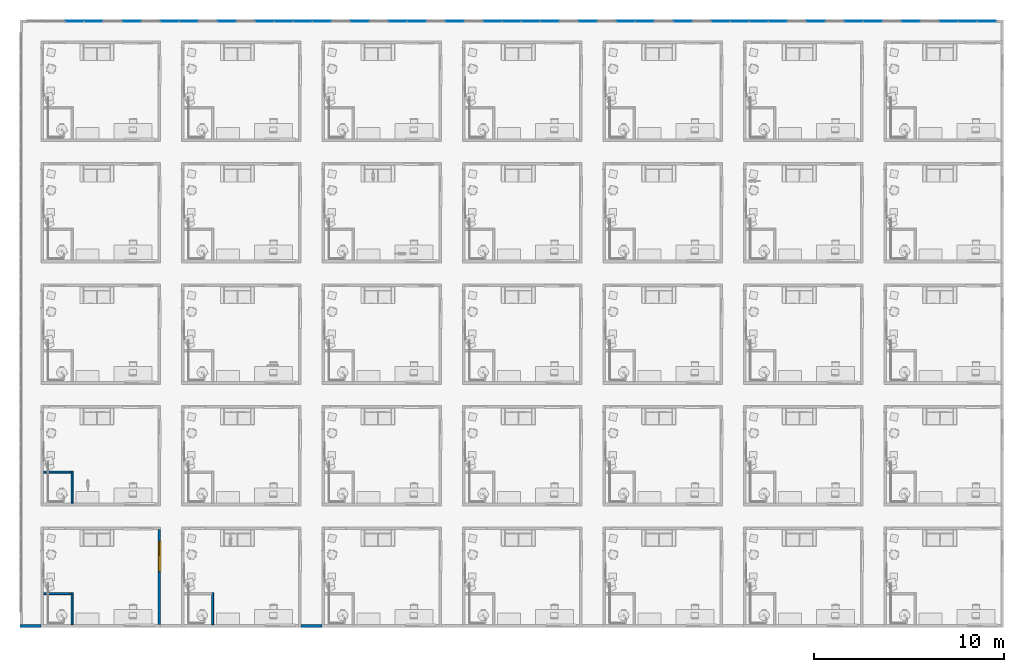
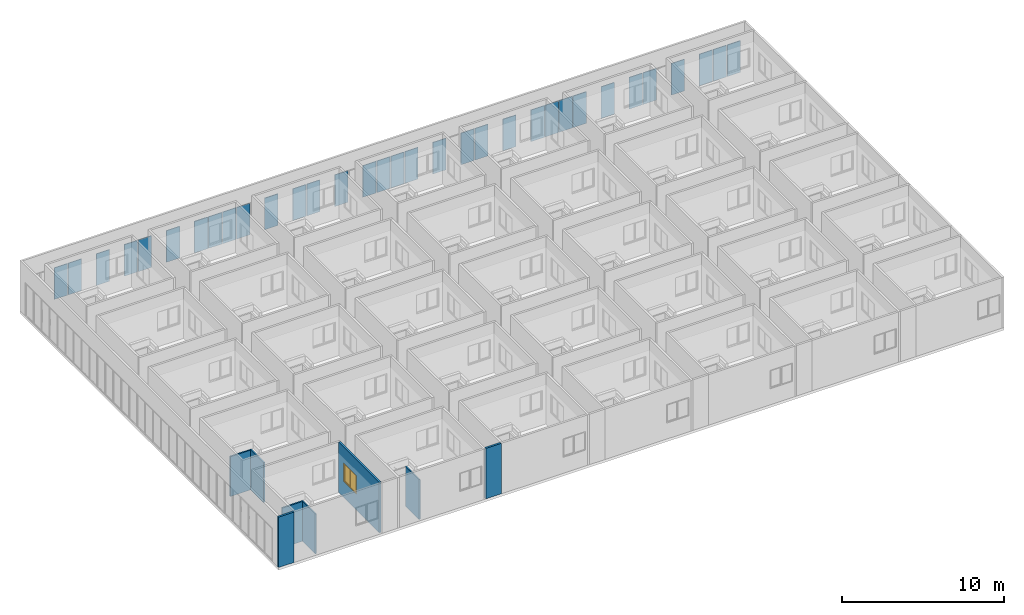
# One storey, part 6 of 71: 33 plates, 8 walls, 1 window, 1 opening, 1 element without a shape of its own.
"""IFC4 building model written with IfcOpenShell, lengths in centimetres."""

from ifc_helpers import new_model, entity, si_unit, converted_unit, derived_unit, direction, frame, origin, place, context, subcontext, project, spatial, indexed_curve, outline, extrude, polygons, source, transform, mapped, material, constituent, constituent_set, type_object, type_shapes, element, fill, aggregate, save


model = new_model("IFC4")

# Units and contexts
model_context = context("Model", 3, precision=0.001, world=origin(), true_north=direction((6.123233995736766e-17, 1.0)))
body_context = subcontext(model_context, "Body", "Model", "MODEL_VIEW")
ifc_project = project(units=[si_unit("LENGTHUNIT", "METRE", prefix="CENTI"), si_unit("AREAUNIT", "SQUARE_METRE"), si_unit("VOLUMEUNIT", "CUBIC_METRE"), derived_unit("THERMALTRANSMITTANCEUNIT", [(si_unit("MASSUNIT", "GRAM", prefix="KILO"), 1), (si_unit("THERMODYNAMICTEMPERATUREUNIT", "KELVIN"), -1), (si_unit("TIMEUNIT", "SECOND"), -3)]), converted_unit("PLANEANGLEUNIT", "DEGREE", entity("IfcPlaneAngleMeasure", 0.017453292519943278), si_unit("PLANEANGLEUNIT", "RADIAN"), dimensions=[0, 0, 0, 0, 0, 0, 0]), derived_unit("MASSDENSITYUNIT", [(si_unit("MASSUNIT", "GRAM", prefix="KILO"), 1), (si_unit("LENGTHUNIT", "METRE"), -3)]), derived_unit("VAPORPERMEABILITYUNIT", [(si_unit("LENGTHUNIT", "METRE"), -1), (si_unit("TIMEUNIT", "SECOND"), 1)]), derived_unit("USERDEFINED", [(si_unit("MASSUNIT", "GRAM", prefix="KILO"), 1), (si_unit("TIMEUNIT", "SECOND"), -3), (si_unit("LENGTHUNIT", "METRE"), 3), (si_unit("ELECTRICCURRENTUNIT", "AMPERE"), -2)]), derived_unit("SPECIFICHEATCAPACITYUNIT", [(si_unit("THERMODYNAMICTEMPERATUREUNIT", "KELVIN"), -1), (si_unit("LENGTHUNIT", "METRE"), 2), (si_unit("TIMEUNIT", "SECOND"), -2)]), derived_unit("THERMALCONDUCTANCEUNIT", [(si_unit("MASSUNIT", "GRAM", prefix="KILO"), 1), (si_unit("THERMODYNAMICTEMPERATUREUNIT", "KELVIN"), -1), (si_unit("TIMEUNIT", "SECOND"), -3), (si_unit("LENGTHUNIT", "METRE"), 1)]), si_unit("PRESSUREUNIT", "PASCAL"), derived_unit("MODULUSOFELASTICITYUNIT", [(si_unit("MASSUNIT", "GRAM", prefix="KILO"), 1), (si_unit("LENGTHUNIT", "METRE"), -1), (si_unit("TIMEUNIT", "SECOND"), -2)]), derived_unit("THERMALEXPANSIONCOEFFICIENTUNIT", [(si_unit("THERMODYNAMICTEMPERATUREUNIT", "KELVIN"), -1)])], contexts=[model_context])

# Site, building, storey
site_placement = place(None, origin())
site = spatial("IfcSite", under=ifc_project, at=site_placement, Name="Default", CompositionType="ELEMENT")
building_placement = place(site_placement, origin())
building = spatial("IfcBuilding", under=site, at=building_placement, Name="IDS Escape Game Building", CompositionType="ELEMENT")
storey_placement = place(building_placement, frame((0.0, 0.0, 1200.0)))
storey = spatial("IfcBuildingStorey", under=building, at=storey_placement, Name="03_Third Floor", CompositionType="ELEMENT", Elevation=1200.0)

# Curtain wall, plates
curtain_wall_type = type_object("IfcCurtainWallType", Name="Curtain Wall:ARC_31.3_CWA_LIB_bandraam vast 100cm - profiel 60x60_gen_BERSnl", PredefinedType="NOTDEFINED")
curtain_wall_placement = place(storey_placement, frame((0.0, 0.0, -1200.0)))
curtain_wall = element("IfcCurtainWall", 1, at=curtain_wall_placement, inside=storey, type_object=curtain_wall_type, Name="Curtain Wall:ARC_31.3_CWA_LIB_bandraam vast 100cm - profiel 60x60_gen_BERSnl", ObjectType="Curtain Wall:ARC_31.3_CWA_LIB_bandraam vast 100cm - profiel 60x60_gen_BERSnl", PredefinedType="NOTDEFINED")
ifc_material_1 = material(Name="ARC_FME.o1_glass_00_gen_BERSnl", Category="o - glas")
plate_type = type_object("IfcPlateType", Name="System Panel:Glazed", PredefinedType="CURTAIN_PANEL", material=ifc_material_1)
shared_shape_1 = source(origin(), body_context, "Body", "SweptSolid", [
    extrude(outline(indexed_curve([(-2.5, -46.92156864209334), (2.5, -46.92156864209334), (2.5, 46.92156864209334), (-2.5, 46.92156864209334), (-2.5, -46.92156864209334)], self_intersect=False)), frame((0.0, 0.0, 0.0), z_axis=(0.0, 0.0, 1.0), x_axis=(0.0, 1.0, 0.0)), (0.0, 0.0, 1.0), 238.00000000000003),
])
type_shapes(plate_type, [shared_shape_1])
plate_1_placement = place(curtain_wall_placement, frame((169.60784316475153, 3182.0, 1206.0)))
plate_1 = element("IfcPlate", 2, at=plate_1_placement, type_object=plate_type, material=ifc_material_1, Name="System Panel:Glazed", ObjectType="System Panel:Glazed", PredefinedType="CURTAIN_PANEL", context=body_context, shape_type="MappedRepresentation", body=[
    mapped(shared_shape_1, transform((0.0, 0.0, 0.0), scale=1.0)),
])
plate_2_placement = place(curtain_wall_placement, frame((269.45098041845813, 3182.0, 1206.0)))
plate_2 = element("IfcPlate", 3, at=plate_2_placement, type_object=plate_type, material=ifc_material_1, Name="System Panel:Glazed", ObjectType="System Panel:Glazed", PredefinedType="CURTAIN_PANEL", context=body_context, shape_type="MappedRepresentation", body=[
    mapped(shared_shape_1, transform((0.0, 0.0, 0.0), scale=1.0)),
])
plate_3_placement = place(curtain_wall_placement, frame((469.1372549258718, 3182.0, 1206.0)))
plate_3 = element("IfcPlate", 4, at=plate_3_placement, type_object=plate_type, material=ifc_material_1, Name="System Panel:Glazed", ObjectType="System Panel:Glazed", PredefinedType="CURTAIN_PANEL", context=body_context, shape_type="MappedRepresentation", body=[
    mapped(shared_shape_1, transform((0.0, 0.0, 0.0), scale=1.0)),
])
plate_4_placement = place(curtain_wall_placement, frame((668.823529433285, 3182.0, 1206.0)))
plate_4 = element("IfcPlate", 5, at=plate_4_placement, type_object=plate_type, material=ifc_material_1, Name="System Panel:Glazed", ObjectType="System Panel:Glazed", PredefinedType="CURTAIN_PANEL", context=body_context, shape_type="MappedRepresentation", body=[
    mapped(shared_shape_1, transform((0.0, 0.0, 0.0), scale=1.0)),
])
plate_5_placement = place(curtain_wall_placement, frame((768.6666666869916, 3182.0, 1206.0)))
plate_5 = element("IfcPlate", 6, at=plate_5_placement, type_object=plate_type, material=ifc_material_1, Name="System Panel:Glazed", ObjectType="System Panel:Glazed", PredefinedType="CURTAIN_PANEL", context=body_context, shape_type="MappedRepresentation", body=[
    mapped(shared_shape_1, transform((0.0, 0.0, 0.0), scale=1.0)),
])
plate_6_placement = place(curtain_wall_placement, frame((968.3529411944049, 3182.0, 1206.0)))
plate_6 = element("IfcPlate", 7, at=plate_6_placement, type_object=plate_type, material=ifc_material_1, Name="System Panel:Glazed", ObjectType="System Panel:Glazed", PredefinedType="CURTAIN_PANEL", context=body_context, shape_type="MappedRepresentation", body=[
    mapped(shared_shape_1, transform((0.0, 0.0, 0.0), scale=1.0)),
])
plate_7_placement = place(curtain_wall_placement, frame((1168.0392157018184, 3182.0, 1206.0)))
plate_7 = element("IfcPlate", 8, at=plate_7_placement, type_object=plate_type, material=ifc_material_1, Name="System Panel:Glazed", ObjectType="System Panel:Glazed", PredefinedType="CURTAIN_PANEL", context=body_context, shape_type="MappedRepresentation", body=[
    mapped(shared_shape_1, transform((0.0, 0.0, 0.0), scale=1.0)),
])
plate_8_placement = place(curtain_wall_placement, frame((1267.8823529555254, 3182.0, 1206.0)))
plate_8 = element("IfcPlate", 9, at=plate_8_placement, type_object=plate_type, material=ifc_material_1, Name="System Panel:Glazed", ObjectType="System Panel:Glazed", PredefinedType="CURTAIN_PANEL", context=body_context, shape_type="MappedRepresentation", body=[
    mapped(shared_shape_1, transform((0.0, 0.0, 0.0), scale=1.0)),
])
plate_9_placement = place(curtain_wall_placement, frame((1367.725490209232, 3182.0, 1206.0)))
plate_9 = element("IfcPlate", 10, at=plate_9_placement, type_object=plate_type, material=ifc_material_1, Name="System Panel:Glazed", ObjectType="System Panel:Glazed", PredefinedType="CURTAIN_PANEL", context=body_context, shape_type="MappedRepresentation", body=[
    mapped(shared_shape_1, transform((0.0, 0.0, 0.0), scale=1.0)),
])
plate_10_placement = place(curtain_wall_placement, frame((1467.568627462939, 3182.0, 1206.0)))
plate_10 = element("IfcPlate", 11, at=plate_10_placement, type_object=plate_type, material=ifc_material_1, Name="System Panel:Glazed", ObjectType="System Panel:Glazed", PredefinedType="CURTAIN_PANEL", context=body_context, shape_type="MappedRepresentation", body=[
    mapped(shared_shape_1, transform((0.0, 0.0, 0.0), scale=1.0)),
])
plate_11_placement = place(curtain_wall_placement, frame((1667.2549019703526, 3182.0, 1206.0)))
plate_11 = element("IfcPlate", 12, at=plate_11_placement, type_object=plate_type, material=ifc_material_1, Name="System Panel:Glazed", ObjectType="System Panel:Glazed", PredefinedType="CURTAIN_PANEL", context=body_context, shape_type="MappedRepresentation", body=[
    mapped(shared_shape_1, transform((0.0, 0.0, 0.0), scale=1.0)),
])
plate_12_placement = place(curtain_wall_placement, frame((1866.9411764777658, 3182.0, 1206.0)))
plate_12 = element("IfcPlate", 13, at=plate_12_placement, type_object=plate_type, material=ifc_material_1, Name="System Panel:Glazed", ObjectType="System Panel:Glazed", PredefinedType="CURTAIN_PANEL", context=body_context, shape_type="MappedRepresentation", body=[
    mapped(shared_shape_1, transform((0.0, 0.0, 0.0), scale=1.0)),
])
plate_13_placement = place(curtain_wall_placement, frame((1966.7843137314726, 3182.0, 1206.0)))
plate_13 = element("IfcPlate", 14, at=plate_13_placement, type_object=plate_type, material=ifc_material_1, Name="System Panel:Glazed", ObjectType="System Panel:Glazed", PredefinedType="CURTAIN_PANEL", context=body_context, shape_type="MappedRepresentation", body=[
    mapped(shared_shape_1, transform((0.0, 0.0, 0.0), scale=1.0)),
])
plate_14_placement = place(curtain_wall_placement, frame((2166.4705882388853, 3182.0, 1206.0)))
plate_14 = element("IfcPlate", 15, at=plate_14_placement, type_object=plate_type, material=ifc_material_1, Name="System Panel:Glazed", ObjectType="System Panel:Glazed", PredefinedType="CURTAIN_PANEL", context=body_context, shape_type="MappedRepresentation", body=[
    mapped(shared_shape_1, transform((0.0, 0.0, 0.0), scale=1.0)),
])
plate_15_placement = place(curtain_wall_placement, frame((2366.156862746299, 3182.0, 1206.0)))
plate_15 = element("IfcPlate", 16, at=plate_15_placement, type_object=plate_type, material=ifc_material_1, Name="System Panel:Glazed", ObjectType="System Panel:Glazed", PredefinedType="CURTAIN_PANEL", context=body_context, shape_type="MappedRepresentation", body=[
    mapped(shared_shape_1, transform((0.0, 0.0, 0.0), scale=1.0)),
])
plate_16_placement = place(curtain_wall_placement, frame((2466.0, 3182.0, 1206.0)))
plate_16 = element("IfcPlate", 17, at=plate_16_placement, type_object=plate_type, material=ifc_material_1, Name="System Panel:Glazed", ObjectType="System Panel:Glazed", PredefinedType="CURTAIN_PANEL", context=body_context, shape_type="MappedRepresentation", body=[
    mapped(shared_shape_1, transform((0.0, 0.0, 0.0), scale=1.0)),
])
plate_17_placement = place(curtain_wall_placement, frame((2565.843137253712, 3182.0, 1206.0)))
plate_17 = element("IfcPlate", 18, at=plate_17_placement, type_object=plate_type, material=ifc_material_1, Name="System Panel:Glazed", ObjectType="System Panel:Glazed", PredefinedType="CURTAIN_PANEL", context=body_context, shape_type="MappedRepresentation", body=[
    mapped(shared_shape_1, transform((0.0, 0.0, 0.0), scale=1.0)),
])
plate_18_placement = place(curtain_wall_placement, frame((2665.6862745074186, 3182.0, 1206.0)))
plate_18 = element("IfcPlate", 19, at=plate_18_placement, type_object=plate_type, material=ifc_material_1, Name="System Panel:Glazed", ObjectType="System Panel:Glazed", PredefinedType="CURTAIN_PANEL", context=body_context, shape_type="MappedRepresentation", body=[
    mapped(shared_shape_1, transform((0.0, 0.0, 0.0), scale=1.0)),
])
plate_19_placement = place(curtain_wall_placement, frame((2865.3725490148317, 3182.0, 1206.0)))
plate_19 = element("IfcPlate", 20, at=plate_19_placement, type_object=plate_type, material=ifc_material_1, Name="System Panel:Glazed", ObjectType="System Panel:Glazed", PredefinedType="CURTAIN_PANEL", context=body_context, shape_type="MappedRepresentation", body=[
    mapped(shared_shape_1, transform((0.0, 0.0, 0.0), scale=1.0)),
])
plate_20_placement = place(curtain_wall_placement, frame((3065.0588235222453, 3182.0, 1206.0)))
plate_20 = element("IfcPlate", 21, at=plate_20_placement, type_object=plate_type, material=ifc_material_1, Name="System Panel:Glazed", ObjectType="System Panel:Glazed", PredefinedType="CURTAIN_PANEL", context=body_context, shape_type="MappedRepresentation", body=[
    mapped(shared_shape_1, transform((0.0, 0.0, 0.0), scale=1.0)),
])
plate_21_placement = place(curtain_wall_placement, frame((3164.9019607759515, 3182.0, 1206.0)))
plate_21 = element("IfcPlate", 22, at=plate_21_placement, type_object=plate_type, material=ifc_material_1, Name="System Panel:Glazed", ObjectType="System Panel:Glazed", PredefinedType="CURTAIN_PANEL", context=body_context, shape_type="MappedRepresentation", body=[
    mapped(shared_shape_1, transform((0.0, 0.0, 0.0), scale=1.0)),
])
plate_22_placement = place(curtain_wall_placement, frame((3364.588235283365, 3182.0, 1206.0)))
plate_22 = element("IfcPlate", 23, at=plate_22_placement, type_object=plate_type, material=ifc_material_1, Name="System Panel:Glazed", ObjectType="System Panel:Glazed", PredefinedType="CURTAIN_PANEL", context=body_context, shape_type="MappedRepresentation", body=[
    mapped(shared_shape_1, transform((0.0, 0.0, 0.0), scale=1.0)),
])
plate_23_placement = place(curtain_wall_placement, frame((3564.2745097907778, 3182.0, 1206.0)))
plate_23 = element("IfcPlate", 24, at=plate_23_placement, type_object=plate_type, material=ifc_material_1, Name="System Panel:Glazed", ObjectType="System Panel:Glazed", PredefinedType="CURTAIN_PANEL", context=body_context, shape_type="MappedRepresentation", body=[
    mapped(shared_shape_1, transform((0.0, 0.0, 0.0), scale=1.0)),
])
plate_24_placement = place(curtain_wall_placement, frame((3664.117647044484, 3182.0, 1206.0)))
plate_24 = element("IfcPlate", 25, at=plate_24_placement, type_object=plate_type, material=ifc_material_1, Name="System Panel:Glazed", ObjectType="System Panel:Glazed", PredefinedType="CURTAIN_PANEL", context=body_context, shape_type="MappedRepresentation", body=[
    mapped(shared_shape_1, transform((0.0, 0.0, 0.0), scale=1.0)),
])
plate_25_placement = place(curtain_wall_placement, frame((3763.9607842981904, 3182.0, 1206.0)))
plate_25 = element("IfcPlate", 26, at=plate_25_placement, type_object=plate_type, material=ifc_material_1, Name="System Panel:Glazed", ObjectType="System Panel:Glazed", PredefinedType="CURTAIN_PANEL", context=body_context, shape_type="MappedRepresentation", body=[
    mapped(shared_shape_1, transform((0.0, 0.0, 0.0), scale=1.0)),
])
plate_26_placement = place(curtain_wall_placement, frame((3863.8039215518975, 3182.0, 1206.0)))
plate_26 = element("IfcPlate", 27, at=plate_26_placement, type_object=plate_type, material=ifc_material_1, Name="System Panel:Glazed", ObjectType="System Panel:Glazed", PredefinedType="CURTAIN_PANEL", context=body_context, shape_type="MappedRepresentation", body=[
    mapped(shared_shape_1, transform((0.0, 0.0, 0.0), scale=1.0)),
])
plate_27_placement = place(curtain_wall_placement, frame((4063.4901960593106, 3182.0, 1206.0)))
plate_27 = element("IfcPlate", 28, at=plate_27_placement, type_object=plate_type, material=ifc_material_1, Name="System Panel:Glazed", ObjectType="System Panel:Glazed", PredefinedType="CURTAIN_PANEL", context=body_context, shape_type="MappedRepresentation", body=[
    mapped(shared_shape_1, transform((0.0, 0.0, 0.0), scale=1.0)),
])
plate_28_placement = place(curtain_wall_placement, frame((4263.176470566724, 3182.0, 1206.0)))
plate_28 = element("IfcPlate", 29, at=plate_28_placement, type_object=plate_type, material=ifc_material_1, Name="System Panel:Glazed", ObjectType="System Panel:Glazed", PredefinedType="CURTAIN_PANEL", context=body_context, shape_type="MappedRepresentation", body=[
    mapped(shared_shape_1, transform((0.0, 0.0, 0.0), scale=1.0)),
])
plate_29_placement = place(curtain_wall_placement, frame((4363.01960782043, 3182.0, 1206.0)))
plate_29 = element("IfcPlate", 30, at=plate_29_placement, type_object=plate_type, material=ifc_material_1, Name="System Panel:Glazed", ObjectType="System Panel:Glazed", PredefinedType="CURTAIN_PANEL", context=body_context, shape_type="MappedRepresentation", body=[
    mapped(shared_shape_1, transform((0.0, 0.0, 0.0), scale=1.0)),
])
plate_30_placement = place(curtain_wall_placement, frame((4562.705882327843, 3182.0, 1206.0)))
plate_30 = element("IfcPlate", 31, at=plate_30_placement, type_object=plate_type, material=ifc_material_1, Name="System Panel:Glazed", ObjectType="System Panel:Glazed", PredefinedType="CURTAIN_PANEL", context=body_context, shape_type="MappedRepresentation", body=[
    mapped(shared_shape_1, transform((0.0, 0.0, 0.0), scale=1.0)),
])
plate_31_placement = place(curtain_wall_placement, frame((4762.392156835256, 3182.0, 1206.0)))
plate_31 = element("IfcPlate", 32, at=plate_31_placement, type_object=plate_type, material=ifc_material_1, Name="System Panel:Glazed", ObjectType="System Panel:Glazed", PredefinedType="CURTAIN_PANEL", context=body_context, shape_type="MappedRepresentation", body=[
    mapped(shared_shape_1, transform((0.0, 0.0, 0.0), scale=1.0)),
])
plate_32_placement = place(curtain_wall_placement, frame((4862.235294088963, 3182.0, 1206.0)))
plate_32 = element("IfcPlate", 33, at=plate_32_placement, type_object=plate_type, material=ifc_material_1, Name="System Panel:Glazed", ObjectType="System Panel:Glazed", PredefinedType="CURTAIN_PANEL", context=body_context, shape_type="MappedRepresentation", body=[
    mapped(shared_shape_1, transform((0.0, 0.0, 0.0), scale=1.0)),
])
plate_33_placement = place(curtain_wall_placement, frame((4962.078431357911, 3182.0, 1206.0)))
plate_33 = element("IfcPlate", 34, at=plate_33_placement, type_object=plate_type, material=ifc_material_1, Name="System Panel:Glazed", ObjectType="System Panel:Glazed", PredefinedType="CURTAIN_PANEL", context=body_context, shape_type="MappedRepresentation", body=[
    mapped(shared_shape_1, transform((0.0, 0.0, 0.0), scale=1.0)),
])
aggregate(curtain_wall, [plate_1, plate_2, plate_3, plate_4, plate_5, plate_6, plate_7, plate_8, plate_9, plate_10, plate_11, plate_12, plate_13, plate_14, plate_15, plate_16, plate_17, plate_18, plate_19, plate_20, plate_21, plate_22, plate_23, plate_24, plate_25, plate_26, plate_27, plate_28, plate_29, plate_30, plate_31, plate_32, plate_33])

# Wall, opening, window
ifc_material_2 = material(Name="ARC_FME.g2_Fg2 Masonry_00_gen_BERSnl", Category="g - klei")
wall_type_1 = type_object("IfcWallType", Name="Basic Wall:ARC_22.10_WA_LB_SB14_gen_BERSnl", PredefinedType="STANDARD")
wall_1_placement = place(storey_placement, frame((614.0, 13.0, 0.0), z_axis=(0.0, 0.0, 1.0), x_axis=(0.0, 1.0, 0.0)))
wall_1 = element("IfcWall", 35, at=wall_1_placement, inside=storey, type_object=wall_type_1, material=ifc_material_2, Name="Basic Wall:ARC_22.10_WA_LB_SB14_gen_BERSnl", ObjectType="Basic Wall:ARC_22.10_WA_LB_SB14_gen_BERSnl", PredefinedType="NOTDEFINED", context=body_context, shape_type="Tessellation", body=[
    polygons([(0.0, -6.9999999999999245, 0.0), (499.9999999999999, -6.9999999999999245, 0.0), (499.9999999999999, -6.9999999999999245, 380.0), (3.383959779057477e-14, -6.9999999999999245, 380.0), (439.99999999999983, -6.999999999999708, 260.00000000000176), (439.9999999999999, -6.9999999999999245, 120.00000000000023), (280.0, -7.000000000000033, 120.00000000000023), (280.00000000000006, -6.999999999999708, 260.00000000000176), (439.9999999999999, 7.000000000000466, 120.00000000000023), (439.9999999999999, 7.000000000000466, 260.0), (280.0, 7.000000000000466, 260.0), (280.0, 7.000000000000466, 120.00000000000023), (3.383959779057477e-14, 7.000000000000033, 0.0), (1.184385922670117e-14, 7.000000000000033, 380.0), (499.9999999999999, 7.000000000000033, 380.0), (499.9999999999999, 7.000000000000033, 0.0)], [[[1, 2, 3, 4], [5, 6, 7, 8]], [[13, 14, 15, 16], [9, 10, 11, 12]], [[2, 1, 13, 16]], [[4, 3, 15, 14]], [[10, 9, 6, 5]], [[7, 12, 11, 8]], [[10, 5, 8, 11]], [[12, 7, 6, 9]], [[1, 4, 14, 13]], [[3, 2, 16, 15]]], closed=True),
])
opening_placement = place(wall_1_placement, frame((-13.0, 614.0, 120.0), z_axis=(0.0, 0.0, 1.0), x_axis=(0.0, -1.0, 0.0)))
opening = element("IfcOpeningElement", 36, at=opening_placement, cuts=wall_1, Name="Basic Wall:ARC_22.10_WA_LB_SB14_gen_BERSnl", PredefinedType="OPENING", context=body_context, shape_type="Tessellation", body=[
    polygons([(607.0, 453.0000000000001, 2.2737367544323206e-13), (607.0, 453.0000000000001, -1.0), (602.0, 453.0000000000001, -1.0), (602.0, 453.0000000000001, 2.2737367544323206e-13), (606.9999999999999, 293.0000000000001, 2.2737367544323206e-13), (601.9999999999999, 293.0000000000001, 2.2737367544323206e-13), (601.9999999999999, 293.0000000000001, -1.0), (606.9999999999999, 293.0000000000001, -1.0), (606.9999999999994, 448.0000000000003, 0.0), (606.9999999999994, 298.00000000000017, 0.0), (601.9999999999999, 298.00000000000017, 2.2737367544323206e-13), (601.9999999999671, 298.0000000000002, 135.0), (601.9999999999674, 448.0000000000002, 135.0), (601.9999999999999, 448.0000000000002, 2.2737367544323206e-13), (626.0368251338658, 453.00000000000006, 2.2737367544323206e-13), (606.9999999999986, 453.00000000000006, 2.2737367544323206e-13), (606.9999999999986, 453.0000000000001, 140.00000000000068), (626.0368251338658, 453.0000000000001, 140.00000000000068), (626.0368251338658, 293.00000000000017, 140.0), (606.9999999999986, 293.00000000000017, 140.0), (606.9999999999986, 293.00000000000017, 2.2737367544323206e-13), (626.0368251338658, 293.00000000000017, 2.2737367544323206e-13), (606.9999999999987, 448.0000000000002, 135.0), (606.9999999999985, 298.0000000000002, 135.0)], [[[1, 2, 3, 4]], [[5, 6, 7, 8]], [[1, 9, 10, 5, 8, 2]], [[2, 8, 7, 3]], [[3, 7, 6, 11, 12, 13, 14, 4]], [[4, 14, 9, 1]], [[15, 16, 17, 18]], [[19, 20, 21, 22]], [[18, 17, 20, 19]], [[18, 19, 22, 15]], [[17, 16, 9, 23, 24, 10, 21, 20]], [[22, 21, 10, 9, 16, 15]], [[11, 10, 24, 12]], [[13, 23, 9, 14]], [[12, 24, 23, 13]], [[5, 10, 11, 6]]], closed=True),
])
ifc_material_3 = material(Name="<Unnamed>")
ifc_constituent_1 = constituent(ifc_material_3, Name="<Unnamed>", fraction=0.0)
ifc_constituent_2 = constituent(ifc_material_1, Name="ARC_FME.o1_glass_00_gen_BERSnl", Category="o - glas", fraction=1.0)
ifc_constituent_set_1 = constituent_set(constituents=[ifc_constituent_1, ifc_constituent_2])
ifc_constituent_3 = constituent(ifc_material_3, Name="BE Tablet", fraction=0.0)
ifc_constituent_4 = constituent(ifc_material_3, Name="Frame/Mullion", fraction=0.0)
ifc_constituent_5 = constituent(ifc_material_1, Name="Glass", Category="o - glas", fraction=1.0)
ifc_constituent_set_2 = constituent_set(constituents=[ifc_constituent_3, ifc_constituent_4, ifc_constituent_5])
window_type = type_object("IfcWindowType", Name="ARC_31_WI_WB_Dubbel Raam-Recht-Vast en Draaiend_gen_BERSnl:Links-Draaiend / Rechts-Draaiend", PartitioningType="NOTDEFINED", PredefinedType="WINDOW", material=ifc_constituent_set_2)
shared_shape_2 = source(origin(), body_context, "Body", "Tessellation", [
    extrude(outline(indexed_curve([(-80.00000000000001, -4.999999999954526), (80.00000000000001, -4.999999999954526), (80.00000000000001, 4.999999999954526), (-80.00000000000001, 4.999999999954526), (-80.00000000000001, -4.999999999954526)], self_intersect=False)), frame((80.0, 7.036825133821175, 1.0), z_axis=(0.0, 0.0, 1.0), x_axis=(-1.0, 0.0, 0.0)), (0.0, 0.0, 1.0), 2.000000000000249),
    extrude(outline(indexed_curve([(-2.9999999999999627, -3.000000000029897), (-7.656209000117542e-14, -3.000000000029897), (-7.064016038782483e-14, 5.979964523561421e-11), (3.0000000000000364, 5.978991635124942e-11), (3.0000000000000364, 2.9999999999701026), (-2.9999999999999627, 2.9999999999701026), (-2.9999999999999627, -3.000000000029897)], self_intersect=False)), frame((80.0, 15.03682513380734, 7.0)), (0.0, 0.0, 1.0), 128.00000000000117),
    extrude(outline(indexed_curve([(-35.499999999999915, -1.2000000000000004), (35.499999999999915, -1.2000000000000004), (35.49999999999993, 1.2), (-35.499999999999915, 1.2), (-35.499999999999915, -1.2000000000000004)], self_intersect=False)), frame((41.50000000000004, 15.036825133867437, 7.0), z_axis=(0.0, 0.0, 1.0), x_axis=(-1.0, 0.0, 0.0)), (0.0, 0.0, 1.0), 128.000000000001),
    extrude(outline(indexed_curve([(-67.00000000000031, -38.500000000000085), (67.00000000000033, -38.5000000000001), (67.00000000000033, 38.50000000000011), (-67.00000000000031, 38.50000000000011), (-67.00000000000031, -38.500000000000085)], self_intersect=False), holes=[indexed_curve([(61.00000000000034, -32.50000000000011), (-61.00000000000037, -32.500000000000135), (-61.00000000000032, 32.50000000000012), (61.00000000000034, 32.50000000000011), (61.00000000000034, -32.50000000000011)], self_intersect=False)]), frame((118.5, 9.03682513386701, 71.0), z_axis=(0.0, 1.0, 0.0), x_axis=(0.0, 0.0, -1.0)), (0.0, 0.0, 1.0), 6.0),
    extrude(outline(indexed_curve([(-32.500000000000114, -1.2000000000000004), (32.500000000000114, -1.2000000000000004), (32.500000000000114, 1.2000000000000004), (-32.500000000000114, 1.2000000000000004), (-32.500000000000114, -1.2000000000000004)], self_intersect=False)), frame((118.5, 12.036825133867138, 10.0), z_axis=(0.0, 0.0, 1.0), x_axis=(-1.0, 0.0, 0.0)), (0.0, 0.0, 1.0), 122.00000000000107),
    polygons([(160.00000000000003, 18.03682513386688, 141.00000000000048), (160.00000000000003, 18.03682513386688, 1.0000000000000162), (4.0607517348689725e-14, 18.036825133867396, 1.0000000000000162), (4.0607517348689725e-14, 18.036825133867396, 141.00000000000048), (6.000000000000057, 18.03682513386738, 135.00000000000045), (6.000000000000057, 18.03682513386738, 7.000000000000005), (76.99999999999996, 18.03682513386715, 7.000000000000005), (154.00000000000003, 18.0368251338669, 7.000000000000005), (154.00000000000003, 18.0368251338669, 135.00000000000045), (76.99999999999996, 18.03682513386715, 135.00000000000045), (160.0, 12.03682513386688, 141.00000000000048), (160.0, 12.03682513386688, 1.0000000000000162), (2.7071678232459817e-14, 12.036825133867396, 1.0000000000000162), (2.7071678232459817e-14, 12.036825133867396, 141.00000000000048), (6.000000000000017, 12.036825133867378, 135.00000000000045), (6.000000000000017, 12.036825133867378, 7.000000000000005), (76.99999999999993, 12.036825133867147, 7.000000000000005), (79.99999999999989, 12.036825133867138, 7.000000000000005), (79.9999999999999, 15.036825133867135, 7.000000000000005), (154.00000000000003, 15.0368251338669, 7.000000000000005), (154.00000000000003, 15.036825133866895, 135.00000000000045), (76.99999999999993, 12.036825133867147, 135.00000000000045), (79.99999999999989, 12.036825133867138, 135.00000000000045), (79.99999999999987, 12.036825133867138, 138.00000000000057), (157.00000000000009, 12.036825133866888, 138.00000000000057), (157.00000000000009, 12.036825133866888, 3.9999999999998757), (79.99999999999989, 12.036825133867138, 3.9999999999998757), (157.0000000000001, 15.036825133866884, 3.9999999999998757), (157.0000000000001, 15.036825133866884, 138.00000000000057), (79.99999999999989, 15.036825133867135, 3.9999999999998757), (79.99999999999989, 15.036825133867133, 138.00000000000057), (79.99999999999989, 15.036825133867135, 135.00000000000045)], [[[1, 2, 3, 4], [5, 6, 7, 8, 9, 10]], [[2, 1, 11, 12]], [[3, 2, 12, 13]], [[4, 3, 13, 14]], [[6, 5, 15, 16]], [[6, 16, 17, 18, 19, 20, 8, 7]], [[9, 8, 20, 21]], [[11, 14, 13, 12], [16, 15, 22, 23, 24, 25, 26, 27, 18, 17]], [[28, 26, 25, 29]], [[30, 27, 26, 28]], [[31, 24, 23, 32]], [[30, 28, 29, 31, 32, 21, 20, 19]], [[1, 4, 14, 11]], [[15, 5, 10, 9, 21, 32, 23, 22]], [[24, 31, 29, 25]], [[27, 30, 19, 18]]], closed=True),
])
type_shapes(window_type, [shared_shape_2])
window_placement = place(opening_placement, frame((626.0368251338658, 293.0, -1.0), z_axis=(0.0, 0.0, 1.0), x_axis=(0.0, 1.0, 0.0)))
window = element("IfcWindow", 37, at=window_placement, inside=storey, type_object=window_type, material=ifc_constituent_set_1, Name="ARC_31_WI_WB_Dubbel Raam-Recht-Vast en Draaiend_gen_BERSnl:Links-Draaiend / Rechts-Draaiend", ObjectType="ARC_31_WI_WB_Dubbel Raam-Recht-Vast en Draaiend_gen_BERSnl:Links-Draaiend / Rechts-Draaiend", OverallHeight=140.00000000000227, OverallWidth=160.0000000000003, PartitioningType="NOTDEFINED", PredefinedType="WINDOW", context=body_context, shape_type="MappedRepresentation", body=[
    mapped(shared_shape_2, transform((0.0, 0.0, 0.0), scale=1.0)),
])
fill(opening, window)

# Walls
wall_2_placement = place(storey_placement, frame((1469.0, 6.0, 0.0), z_axis=(0.0, 0.0, 1.0), x_axis=(-1.0, 0.0, 0.0)))
element("IfcWall", 38, at=wall_2_placement, inside=storey, type_object=wall_type_1, material=ifc_material_2, Name="Basic Wall:ARC_22.10_WA_LB_SB14_gen_BERSnl", ObjectType="Basic Wall:ARC_22.10_WA_LB_SB14_gen_BERSnl", PredefinedType="NOTDEFINED", context=body_context, shape_type="SweptSolid", body=[
    extrude(outline(indexed_curve([(109.99999999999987, 6.999999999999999), (-2.2611003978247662e-14, 7.0), (2.2611003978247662e-14, -6.999999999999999), (109.99999999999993, -6.999999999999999), (109.99999999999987, 6.999999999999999)], self_intersect=False)), origin(), (0.0, 0.0, 1.0), 380.0000000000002),
])
wall_3_placement = place(storey_placement, frame((-7.0, 6.0, 0.0), z_axis=(0.0, 0.0, 1.0), x_axis=(-1.0, 0.0, 0.0)))
element("IfcWall", 39, at=wall_3_placement, inside=storey, type_object=wall_type_1, material=ifc_material_2, Name="Basic Wall:ARC_22.10_WA_LB_SB14_gen_BERSnl", ObjectType="Basic Wall:ARC_22.10_WA_LB_SB14_gen_BERSnl", PredefinedType="NOTDEFINED", context=body_context, shape_type="SweptSolid", body=[
    extrude(outline(indexed_curve([(110.00000000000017, 7.000000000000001), (2.3072453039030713e-16, 7.0), (-2.307245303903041e-16, -7.000000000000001), (110.00000000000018, -7.000000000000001), (110.00000000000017, 7.000000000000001)], self_intersect=False)), origin(), (0.0, 0.0, 1.0), 380.0000000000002),
])
ifc_material_4 = material(Name="ARC_FME.r2_Plaster_white_gen_BERSnl", Category="r - klei, gips, magnesium en kunststof bindmiddelen")
wall_type_2 = type_object("IfcWallType", Name="Basic Wall:ARC_22.10_WA_LB_GPS10_gen_BERSnl", PredefinedType="STANDARD")
wall_4_placement = place(storey_placement, frame((157.0, 13.0, 0.0), z_axis=(0.0, 0.0, 1.0), x_axis=(0.0, 1.0, 0.0)))
element("IfcWall", 40, at=wall_4_placement, inside=storey, type_object=wall_type_2, material=ifc_material_4, Name="Basic Wall:ARC_22.10_WA_LB_GPS10_gen_BERSnl", ObjectType="Basic Wall:ARC_22.10_WA_LB_GPS10_gen_BERSnl", PredefinedType="NOTDEFINED", context=body_context, shape_type="SweptSolid", body=[
    extrude(outline(indexed_curve([(168.00000000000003, 4.9999999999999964), (-1.1881077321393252e-15, 5.0), (-5.038721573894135e-16, -5.0), (168.00000000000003, -5.0000000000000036), (168.00000000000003, 4.9999999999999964)], self_intersect=False)), origin(), (0.0, 0.0, 1.0), 300.0000000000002),
])
wall_5_placement = place(storey_placement, frame((152.0, 176.0, 0.0), z_axis=(0.0, 0.0, 1.0), x_axis=(-1.0, 0.0, 0.0)))
element("IfcWall", 41, at=wall_5_placement, inside=storey, type_object=wall_type_2, material=ifc_material_4, Name="Basic Wall:ARC_22.10_WA_LB_GPS10_gen_BERSnl", ObjectType="Basic Wall:ARC_22.10_WA_LB_GPS10_gen_BERSnl", PredefinedType="NOTDEFINED", context=body_context, shape_type="SweptSolid", body=[
    extrude(outline(indexed_curve([(145.00000000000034, 5.000000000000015), (1.0690726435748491e-14, 5.0), (-1.0690726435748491e-14, -5.0), (145.00000000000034, -4.999999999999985), (145.00000000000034, 5.000000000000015)], self_intersect=False)), origin(), (0.0, 0.0, 1.0), 300.0000000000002),
])
wall_6_placement = place(storey_placement, frame((895.0, 13.0, 0.0), z_axis=(0.0, 0.0, 1.0), x_axis=(0.0, 1.0, 0.0)))
element("IfcWall", 42, at=wall_6_placement, inside=storey, type_object=wall_type_2, material=ifc_material_4, Name="Basic Wall:ARC_22.10_WA_LB_GPS10_gen_BERSnl", ObjectType="Basic Wall:ARC_22.10_WA_LB_GPS10_gen_BERSnl", PredefinedType="NOTDEFINED", context=body_context, shape_type="SweptSolid", body=[
    extrude(outline(indexed_curve([(168.00000000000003, 4.999999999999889), (-1.1881077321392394e-15, 4.999999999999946), (-5.038721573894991e-16, -4.999999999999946), (168.00000000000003, -5.0000000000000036), (168.00000000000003, 4.999999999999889)], self_intersect=False)), origin(), (0.0, 0.0, 1.0), 300.0000000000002),
])
wall_7_placement = place(storey_placement, frame((157.0, 651.0, 0.0), z_axis=(0.0, 0.0, 1.0), x_axis=(0.0, 1.0, 0.0)))
element("IfcWall", 43, at=wall_7_placement, inside=storey, type_object=wall_type_2, material=ifc_material_4, Name="Basic Wall:ARC_22.10_WA_LB_GPS10_gen_BERSnl", ObjectType="Basic Wall:ARC_22.10_WA_LB_GPS10_gen_BERSnl", PredefinedType="NOTDEFINED", context=body_context, shape_type="SweptSolid", body=[
    extrude(outline(indexed_curve([(168.00000000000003, 4.9999999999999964), (-7.956027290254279e-15, 5.0), (7.956027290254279e-15, -5.0), (168.00000000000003, -5.0000000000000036), (168.00000000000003, 4.9999999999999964)], self_intersect=False)), origin(), (0.0, 0.0, 1.0), 300.0000000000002),
])
wall_8_placement = place(storey_placement, frame((152.0, 814.0, 0.0), z_axis=(0.0, 0.0, 1.0), x_axis=(-1.0, 0.0, 0.0)))
element("IfcWall", 44, at=wall_8_placement, inside=storey, type_object=wall_type_2, material=ifc_material_4, Name="Basic Wall:ARC_22.10_WA_LB_GPS10_gen_BERSnl", ObjectType="Basic Wall:ARC_22.10_WA_LB_GPS10_gen_BERSnl", PredefinedType="NOTDEFINED", context=body_context, shape_type="SweptSolid", body=[
    extrude(outline(indexed_curve([(145.00000000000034, 4.99999999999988), (1.0690726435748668e-14, 4.999999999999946), (-1.0690726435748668e-14, -4.999999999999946), (145.00000000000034, -5.000000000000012), (145.00000000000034, 4.99999999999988)], self_intersect=False)), origin(), (0.0, 0.0, 1.0), 300.0000000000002),
])

save(model, "model.ifc")
